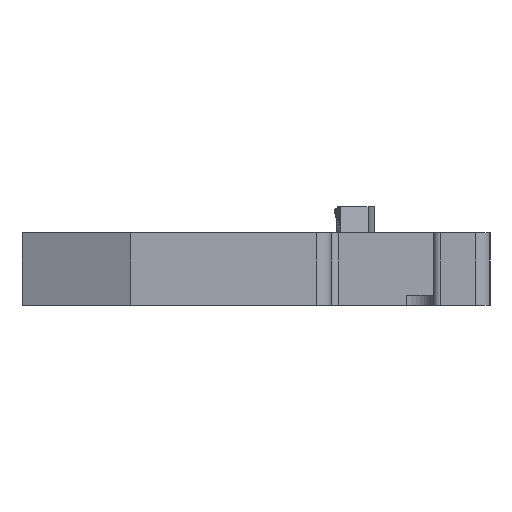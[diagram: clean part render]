
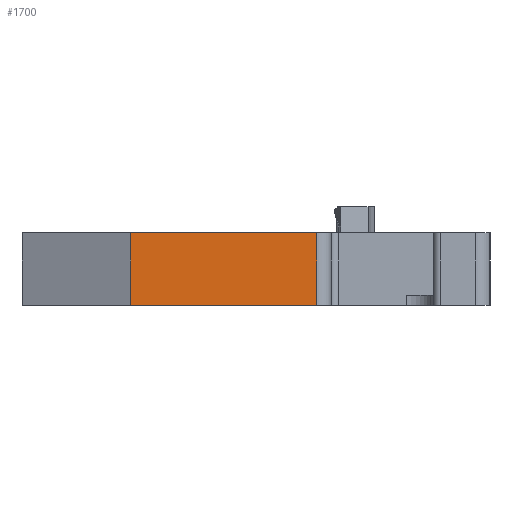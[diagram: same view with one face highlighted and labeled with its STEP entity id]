
A CAD part, left-side view. The second image highlights one B-rep face of the part: STEP entity #1700.
In plain terms, the highlighted planar face has unit normal (-1, 0, 0).
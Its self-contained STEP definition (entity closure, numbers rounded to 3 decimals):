
#323 = AXIS2_PLACEMENT_3D ( 'NONE', #26775, #27553, #15296 ) ;
#1693 = EDGE_LOOP ( 'NONE', ( #4162, #31269, #36429, #27413 ) ) ;
#1700 = ADVANCED_FACE ( 'NONE', ( #8872 ), #4512, .T. ) ;
#3103 = VERTEX_POINT ( 'NONE', #21733 ) ;
#3204 = DIRECTION ( 'NONE',  ( 0., -1., 0. ) ) ;
#4162 = ORIENTED_EDGE ( 'NONE', *, *, #26129, .F. ) ;
#4512 = PLANE ( 'NONE',  #323 ) ;
#6830 = LINE ( 'NONE', #30419, #9536 ) ;
#6948 = VECTOR ( 'NONE', #33755, 1000. ) ;
#6991 = CARTESIAN_POINT ( 'NONE',  ( -22.112, 33.052, -40.852 ) ) ;
#8872 = FACE_OUTER_BOUND ( 'NONE', #1693, .T. ) ;
#9536 = VECTOR ( 'NONE', #22040, 1000. ) ;
#12564 = CARTESIAN_POINT ( 'NONE',  ( -22.118, 20.252, -35.852 ) ) ;
#14211 = CARTESIAN_POINT ( 'NONE',  ( -22.118, 20.252, -40.852 ) ) ;
#15296 = DIRECTION ( 'NONE',  ( 0., -1., 0. ) ) ;
#15983 = LINE ( 'NONE', #14211, #6948 ) ;
#16290 = CARTESIAN_POINT ( 'NONE',  ( -22.118, 20.252, -40.852 ) ) ;
#16397 = VERTEX_POINT ( 'NONE', #6991 ) ;
#18252 = VECTOR ( 'NONE', #34716, 1000. ) ;
#21615 = EDGE_CURVE ( 'NONE', #16397, #3103, #6830, .T. ) ;
#21733 = CARTESIAN_POINT ( 'NONE',  ( -22.112, 33.052, -35.852 ) ) ;
#22040 = DIRECTION ( 'NONE',  ( 0., 0., 1. ) ) ;
#23254 = CARTESIAN_POINT ( 'NONE',  ( -22.112, 33.052, -40.852 ) ) ;
#25877 = VERTEX_POINT ( 'NONE', #16290 ) ;
#26129 = EDGE_CURVE ( 'NONE', #3103, #28966, #33040, .T. ) ;
#26775 = CARTESIAN_POINT ( 'NONE',  ( -22.112, 33.052, -40.852 ) ) ;
#27320 = EDGE_CURVE ( 'NONE', #16397, #25877, #33031, .T. ) ;
#27413 = ORIENTED_EDGE ( 'NONE', *, *, #36895, .T. ) ;
#27553 = DIRECTION ( 'NONE',  ( -1., 0., 0. ) ) ;
#28966 = VERTEX_POINT ( 'NONE', #12564 ) ;
#29329 = CARTESIAN_POINT ( 'NONE',  ( -22.112, 33.052, -35.852 ) ) ;
#30419 = CARTESIAN_POINT ( 'NONE',  ( -22.112, 33.052, -40.852 ) ) ;
#31269 = ORIENTED_EDGE ( 'NONE', *, *, #21615, .F. ) ;
#31695 = VECTOR ( 'NONE', #3204, 1000. ) ;
#33031 = LINE ( 'NONE', #23254, #31695 ) ;
#33040 = LINE ( 'NONE', #29329, #18252 ) ;
#33755 = DIRECTION ( 'NONE',  ( 0., 0., 1. ) ) ;
#34716 = DIRECTION ( 'NONE',  ( 0., -1., 0. ) ) ;
#36429 = ORIENTED_EDGE ( 'NONE', *, *, #27320, .T. ) ;
#36895 = EDGE_CURVE ( 'NONE', #25877, #28966, #15983, .T. ) ;
